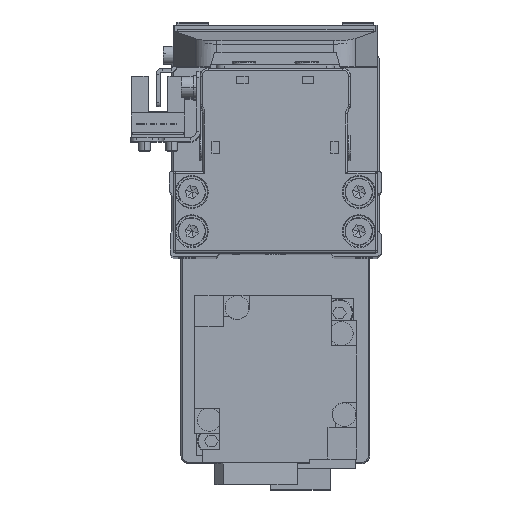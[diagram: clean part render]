
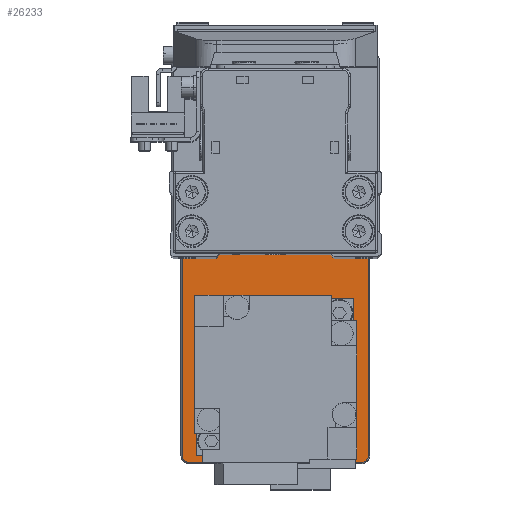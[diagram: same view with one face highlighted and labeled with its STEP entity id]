
A CAD part, top view. The second image highlights one B-rep face of the part: STEP entity #26233.
In plain terms, the highlighted planar face has unit normal (0, 0, 1).
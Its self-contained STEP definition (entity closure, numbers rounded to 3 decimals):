
#329 = VERTEX_POINT ( 'NONE', #8683 ) ;
#650 = EDGE_CURVE ( 'NONE', #23687, #12120, #28603, .T. ) ;
#826 = EDGE_CURVE ( 'NONE', #13426, #20031, #27967, .T. ) ;
#1175 = EDGE_CURVE ( 'NONE', #36647, #329, #21565, .T. ) ;
#1179 = CARTESIAN_POINT ( 'NONE',  ( -50., 23.7, 5. ) ) ;
#1440 = CARTESIAN_POINT ( 'NONE',  ( 51.7, 22., 5. ) ) ;
#1448 = CARTESIAN_POINT ( 'NONE',  ( 50., 22., 5. ) ) ;
#1510 = VECTOR ( 'NONE', #27724, 1000. ) ;
#1737 = CARTESIAN_POINT ( 'NONE',  ( 17.2, 0., 5. ) ) ;
#2242 = DIRECTION ( 'NONE',  ( 1., 0., 0. ) ) ;
#2378 = FACE_BOUND ( 'NONE', #11706, .T. ) ;
#3306 = LINE ( 'NONE', #15507, #1510 ) ;
#3686 = ORIENTED_EDGE ( 'NONE', *, *, #7581, .T. ) ;
#4268 = AXIS2_PLACEMENT_3D ( 'NONE', #20378, #32616, #5181 ) ;
#4347 = AXIS2_PLACEMENT_3D ( 'NONE', #4608, #16805, #29025 ) ;
#4418 = CARTESIAN_POINT ( 'NONE',  ( -51.7, 22., 5. ) ) ;
#4608 = CARTESIAN_POINT ( 'NONE',  ( -28., 0., 5. ) ) ;
#5099 = ORIENTED_EDGE ( 'NONE', *, *, #16732, .T. ) ;
#5134 = VERTEX_POINT ( 'NONE', #13176 ) ;
#5181 = DIRECTION ( 'NONE',  ( 1., 0., 0. ) ) ;
#5418 = DIRECTION ( 'NONE',  ( 0., 1., 0. ) ) ;
#5468 = ORIENTED_EDGE ( 'NONE', *, *, #1175, .T. ) ;
#6008 = AXIS2_PLACEMENT_3D ( 'NONE', #13661, #25854, #38098 ) ;
#7121 = DIRECTION ( 'NONE',  ( 0., -1., 0. ) ) ;
#7133 = CARTESIAN_POINT ( 'NONE',  ( 42.8, 0., 5. ) ) ;
#7581 = EDGE_CURVE ( 'NONE', #31799, #23687, #20609, .T. ) ;
#8055 = AXIS2_PLACEMENT_3D ( 'NONE', #27190, #39439, #11987 ) ;
#8453 = VERTEX_POINT ( 'NONE', #1737 ) ;
#8497 = AXIS2_PLACEMENT_3D ( 'NONE', #17432, #29655, #2242 ) ;
#8683 = CARTESIAN_POINT ( 'NONE',  ( -17.7, 0., 5. ) ) ;
#9617 = EDGE_CURVE ( 'NONE', #12120, #5134, #28596, .T. ) ;
#9989 = VERTEX_POINT ( 'NONE', #24723 ) ;
#10143 = DIRECTION ( 'NONE',  ( 1., 0., 0. ) ) ;
#10715 = AXIS2_PLACEMENT_3D ( 'NONE', #14848, #27052, #39298 ) ;
#11098 = EDGE_LOOP ( 'NONE', ( #17150, #5468 ) ) ;
#11356 = AXIS2_PLACEMENT_3D ( 'NONE', #1448, #13665, #25856 ) ;
#11567 = CARTESIAN_POINT ( 'NONE',  ( 0., 0., 5. ) ) ;
#11610 = VECTOR ( 'NONE', #5418, 1000. ) ;
#11706 = EDGE_LOOP ( 'NONE', ( #29866, #15302 ) ) ;
#11987 = DIRECTION ( 'NONE',  ( 1., 0., 0. ) ) ;
#12120 = VERTEX_POINT ( 'NONE', #14592 ) ;
#13080 = CIRCLE ( 'NONE', #35480, 12.8 ) ;
#13176 = CARTESIAN_POINT ( 'NONE',  ( -50., 23.7, 5. ) ) ;
#13388 = DIRECTION ( 'NONE',  ( -1., 0., 0. ) ) ;
#13426 = VERTEX_POINT ( 'NONE', #19398 ) ;
#13661 = CARTESIAN_POINT ( 'NONE',  ( 50., -22., 5. ) ) ;
#13665 = DIRECTION ( 'NONE',  ( 0., 0., 1. ) ) ;
#14309 = CARTESIAN_POINT ( 'NONE',  ( -38.3, 0., 5. ) ) ;
#14586 = FACE_BOUND ( 'NONE', #11098, .T. ) ;
#14592 = CARTESIAN_POINT ( 'NONE',  ( 50., 23.7, 5. ) ) ;
#14687 = VERTEX_POINT ( 'NONE', #4418 ) ;
#14848 = CARTESIAN_POINT ( 'NONE',  ( -50., -22., 5. ) ) ;
#15302 = ORIENTED_EDGE ( 'NONE', *, *, #31811, .T. ) ;
#15507 = CARTESIAN_POINT ( 'NONE',  ( 50., -23.7, 5. ) ) ;
#16732 = EDGE_CURVE ( 'NONE', #14687, #13426, #22316, .T. ) ;
#16805 = DIRECTION ( 'NONE',  ( 0., 0., -1. ) ) ;
#17150 = ORIENTED_EDGE ( 'NONE', *, *, #23776, .T. ) ;
#17432 = CARTESIAN_POINT ( 'NONE',  ( -28., 0., 5. ) ) ;
#17979 = CARTESIAN_POINT ( 'NONE',  ( 51.7, -22., 5. ) ) ;
#19172 = EDGE_CURVE ( 'NONE', #5134, #14687, #38819, .T. ) ;
#19398 = CARTESIAN_POINT ( 'NONE',  ( -51.7, -22., 5. ) ) ;
#20031 = VERTEX_POINT ( 'NONE', #39082 ) ;
#20216 = VECTOR ( 'NONE', #13388, 1000. ) ;
#20378 = CARTESIAN_POINT ( 'NONE',  ( -50., 22., 5. ) ) ;
#20609 = LINE ( 'NONE', #32855, #11610 ) ;
#20708 = EDGE_LOOP ( 'NONE', ( #29904, #34945, #3686, #28655, #20924, #28827, #5099, #31279 ) ) ;
#20924 = ORIENTED_EDGE ( 'NONE', *, *, #9617, .T. ) ;
#21565 = CIRCLE ( 'NONE', #4347, 10.3 ) ;
#22316 = LINE ( 'NONE', #34554, #23365 ) ;
#23254 = CIRCLE ( 'NONE', #6008, 1.7 ) ;
#23365 = VECTOR ( 'NONE', #7121, 1000. ) ;
#23687 = VERTEX_POINT ( 'NONE', #1440 ) ;
#23756 = DIRECTION ( 'NONE',  ( 0., 0., 1. ) ) ;
#23776 = EDGE_CURVE ( 'NONE', #329, #36647, #25751, .T. ) ;
#24324 = EDGE_CURVE ( 'NONE', #20031, #9989, #3306, .T. ) ;
#24723 = CARTESIAN_POINT ( 'NONE',  ( 50., -23.7, 5. ) ) ;
#24919 = EDGE_CURVE ( 'NONE', #9989, #31799, #23254, .T. ) ;
#25262 = AXIS2_PLACEMENT_3D ( 'NONE', #11567, #23756, #36010 ) ;
#25286 = CIRCLE ( 'NONE', #8055, 12.8 ) ;
#25348 = CARTESIAN_POINT ( 'NONE',  ( 30., 0., 5. ) ) ;
#25751 = CIRCLE ( 'NONE', #8497, 10.3 ) ;
#25854 = DIRECTION ( 'NONE',  ( 0., 0., 1. ) ) ;
#25856 = DIRECTION ( 'NONE',  ( 1., 0., 0. ) ) ;
#26233 = ADVANCED_FACE ( 'NONE', ( #2378, #14586, #26796 ), #39030, .T. ) ;
#26796 = FACE_OUTER_BOUND ( 'NONE', #20708, .T. ) ;
#27052 = DIRECTION ( 'NONE',  ( 0., 0., 1. ) ) ;
#27190 = CARTESIAN_POINT ( 'NONE',  ( 30., 0., 5. ) ) ;
#27724 = DIRECTION ( 'NONE',  ( 1., 0., 0. ) ) ;
#27967 = CIRCLE ( 'NONE', #10715, 1.7 ) ;
#28596 = LINE ( 'NONE', #1179, #20216 ) ;
#28603 = CIRCLE ( 'NONE', #11356, 1.7 ) ;
#28655 = ORIENTED_EDGE ( 'NONE', *, *, #650, .T. ) ;
#28827 = ORIENTED_EDGE ( 'NONE', *, *, #19172, .T. ) ;
#29025 = DIRECTION ( 'NONE',  ( 1., 0., 0. ) ) ;
#29515 = VERTEX_POINT ( 'NONE', #7133 ) ;
#29655 = DIRECTION ( 'NONE',  ( 0., 0., -1. ) ) ;
#29866 = ORIENTED_EDGE ( 'NONE', *, *, #33529, .T. ) ;
#29904 = ORIENTED_EDGE ( 'NONE', *, *, #24324, .T. ) ;
#31279 = ORIENTED_EDGE ( 'NONE', *, *, #826, .T. ) ;
#31799 = VERTEX_POINT ( 'NONE', #17979 ) ;
#31811 = EDGE_CURVE ( 'NONE', #8453, #29515, #25286, .T. ) ;
#32616 = DIRECTION ( 'NONE',  ( 0., 0., 1. ) ) ;
#32855 = CARTESIAN_POINT ( 'NONE',  ( 51.7, 22., 5. ) ) ;
#33529 = EDGE_CURVE ( 'NONE', #29515, #8453, #13080, .T. ) ;
#34554 = CARTESIAN_POINT ( 'NONE',  ( -51.7, -22., 5. ) ) ;
#34945 = ORIENTED_EDGE ( 'NONE', *, *, #24919, .T. ) ;
#35480 = AXIS2_PLACEMENT_3D ( 'NONE', #25348, #37600, #10143 ) ;
#36010 = DIRECTION ( 'NONE',  ( 1., 0., 0. ) ) ;
#36647 = VERTEX_POINT ( 'NONE', #14309 ) ;
#37600 = DIRECTION ( 'NONE',  ( 0., 0., -1. ) ) ;
#38098 = DIRECTION ( 'NONE',  ( 1., 0., 0. ) ) ;
#38819 = CIRCLE ( 'NONE', #4268, 1.7 ) ;
#39030 = PLANE ( 'NONE',  #25262 ) ;
#39082 = CARTESIAN_POINT ( 'NONE',  ( -50., -23.7, 5. ) ) ;
#39298 = DIRECTION ( 'NONE',  ( 1., 0., 0. ) ) ;
#39439 = DIRECTION ( 'NONE',  ( 0., 0., -1. ) ) ;
